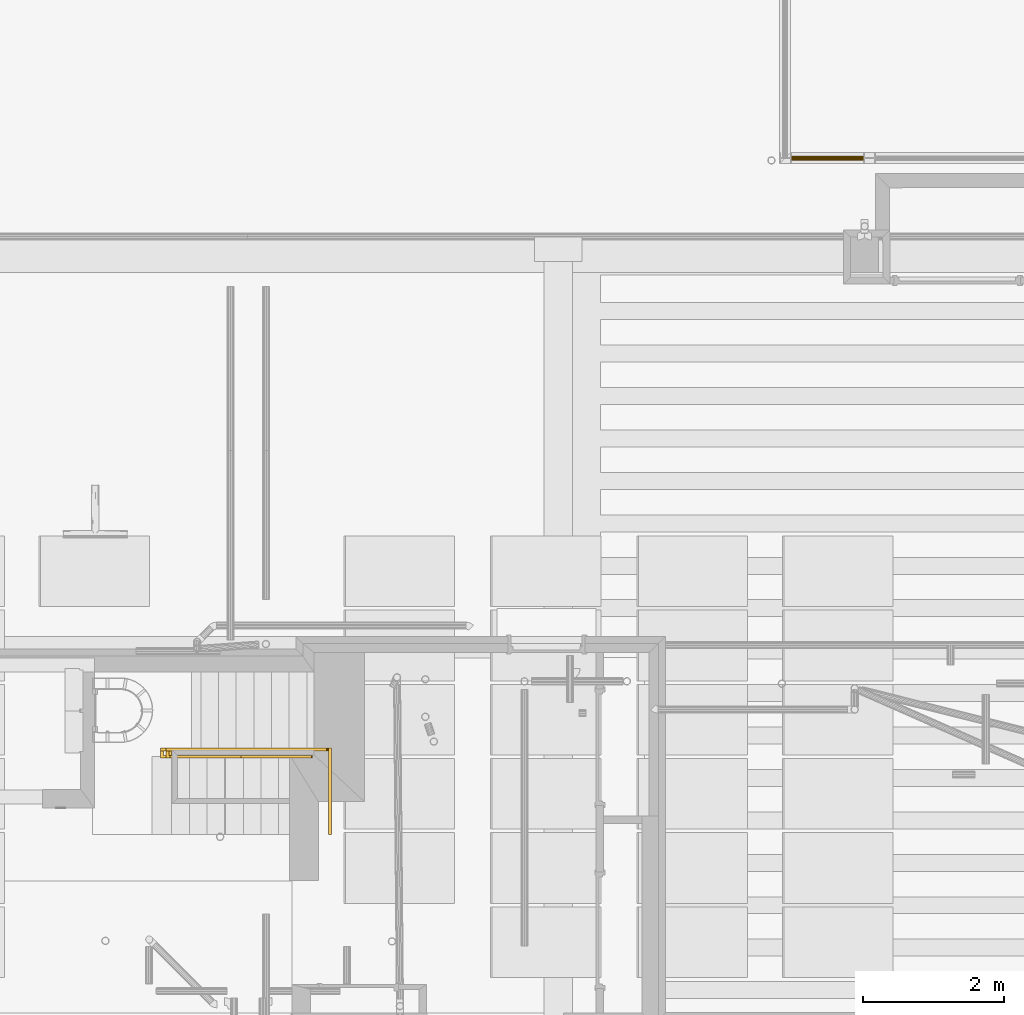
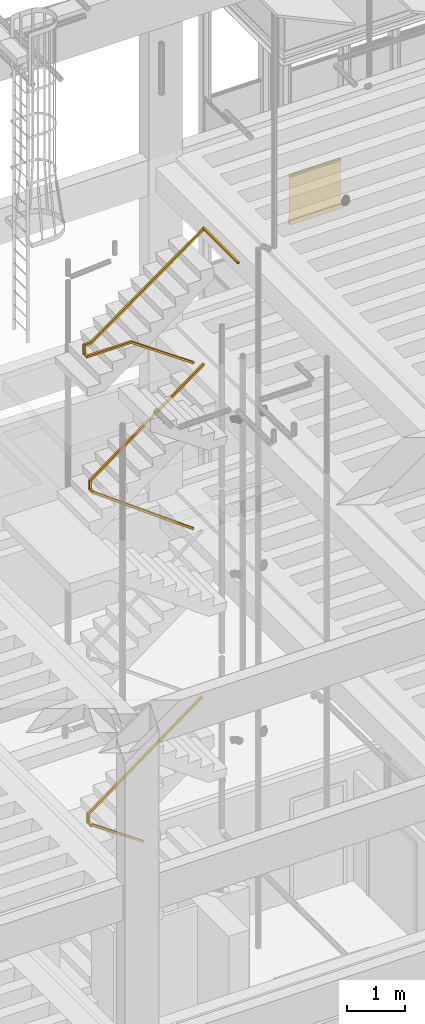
# One storey, part 30 of 108: 5 railings.
"""IFC2X3 building model written with IfcOpenShell, lengths in metres."""

from ifc_helpers import new_model, entity, si_unit, converted_unit, derived_unit, money_unit, direction, frame, origin_with_axes, place, context, subcontext, project, spatial, faceted_brep, material, type_object, element, save


model = new_model("IFC2X3")

# Units and contexts
model_context = context("Model", 3, precision=1e-05, world=origin_with_axes(), true_north=direction((0.0, 1.0)))
body_context = subcontext(model_context, "Body", "Model", "MODEL_VIEW", scale=1.0)
ifc_project = project(units=[si_unit("LENGTHUNIT", "METRE"), si_unit("AREAUNIT", "SQUARE_METRE"), si_unit("VOLUMEUNIT", "CUBIC_METRE"), si_unit("ABSORBEDDOSEUNIT", "GRAY"), si_unit("AMOUNTOFSUBSTANCEUNIT", "MOLE"), si_unit("DOSEEQUIVALENTUNIT", "SIEVERT"), si_unit("ELECTRICCAPACITANCEUNIT", "FARAD"), si_unit("ELECTRICCHARGEUNIT", "COULOMB"), si_unit("ELECTRICCONDUCTANCEUNIT", "SIEMENS"), si_unit("ELECTRICCURRENTUNIT", "AMPERE"), si_unit("ELECTRICRESISTANCEUNIT", "OHM"), si_unit("ELECTRICVOLTAGEUNIT", "VOLT"), si_unit("ENERGYUNIT", "JOULE"), si_unit("FORCEUNIT", "NEWTON"), si_unit("FREQUENCYUNIT", "HERTZ"), si_unit("ILLUMINANCEUNIT", "LUX"), si_unit("INDUCTANCEUNIT", "HENRY"), si_unit("LUMINOUSFLUXUNIT", "LUMEN"), si_unit("LUMINOUSINTENSITYUNIT", "CANDELA"), si_unit("MAGNETICFLUXDENSITYUNIT", "TESLA"), si_unit("MAGNETICFLUXUNIT", "WEBER"), si_unit("MASSUNIT", "GRAM"), converted_unit("PLANEANGLEUNIT", "degree", entity("IfcReal", 0.0174532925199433), si_unit("PLANEANGLEUNIT", "RADIAN"), dimensions=[0, 0, 0, 0, 0, 0, 0]), si_unit("POWERUNIT", "WATT"), si_unit("PRESSUREUNIT", "PASCAL"), si_unit("RADIOACTIVITYUNIT", "BECQUEREL"), si_unit("SOLIDANGLEUNIT", "STERADIAN"), si_unit("THERMODYNAMICTEMPERATUREUNIT", "KELVIN"), si_unit("TIMEUNIT", "SECOND"), derived_unit("ACCELERATIONUNIT", [(si_unit("LENGTHUNIT", "METRE"), 1), (si_unit("TIMEUNIT", "SECOND"), -2)]), derived_unit("ANGULARVELOCITYUNIT", [(converted_unit("PLANEANGLEUNIT", "degree", entity("IfcReal", 0.0174532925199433), si_unit("PLANEANGLEUNIT", "RADIAN"), dimensions=[0, 0, 0, 0, 0, 0, 0]), 1), (si_unit("TIMEUNIT", "SECOND"), -1)]), derived_unit("CURVATUREUNIT", [(converted_unit("PLANEANGLEUNIT", "degree", entity("IfcReal", 0.0174532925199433), si_unit("PLANEANGLEUNIT", "RADIAN"), dimensions=[0, 0, 0, 0, 0, 0, 0]), 1), (si_unit("LENGTHUNIT", "METRE"), -1)]), derived_unit("DYNAMICVISCOSITYUNIT", [(si_unit("PRESSUREUNIT", "PASCAL"), 1), (si_unit("TIMEUNIT", "SECOND"), 1)]), derived_unit("HEATFLUXDENSITYUNIT", [(si_unit("POWERUNIT", "WATT"), 1), (si_unit("LENGTHUNIT", "METRE"), -2)]), derived_unit("HEATINGVALUEUNIT", [(si_unit("ENERGYUNIT", "JOULE"), 1), (si_unit("MASSUNIT", "GRAM"), -1)]), derived_unit("INTEGERCOUNTRATEUNIT", [(si_unit("TIMEUNIT", "SECOND"), -1)]), derived_unit("IONCONCENTRATIONUNIT", [(si_unit("MASSUNIT", "GRAM"), 1), (si_unit("VOLUMEUNIT", "CUBIC_METRE"), -1)]), derived_unit("ISOTHERMALMOISTURECAPACITYUNIT", [(si_unit("VOLUMEUNIT", "CUBIC_METRE"), 1), (si_unit("MASSUNIT", "GRAM"), -1)]), derived_unit("KINEMATICVISCOSITYUNIT", [(si_unit("AREAUNIT", "SQUARE_METRE"), 1), (si_unit("TIMEUNIT", "SECOND"), -1)]), derived_unit("LINEARFORCEUNIT", [(si_unit("FORCEUNIT", "NEWTON"), 1), (si_unit("LENGTHUNIT", "METRE"), -1)]), derived_unit("LINEARMOMENTUNIT", [(si_unit("FORCEUNIT", "NEWTON"), 1), (si_unit("LENGTHUNIT", "METRE"), -1)]), derived_unit("LINEARSTIFFNESSUNIT", [(si_unit("FORCEUNIT", "NEWTON"), 1), (si_unit("LENGTHUNIT", "METRE"), -1)]), derived_unit("LINEARVELOCITYUNIT", [(si_unit("LENGTHUNIT", "METRE"), 1), (si_unit("TIMEUNIT", "SECOND"), -1)]), derived_unit("LUMINOUSINTENSITYDISTRIBUTIONUNIT", [(si_unit("LUMINOUSINTENSITYUNIT", "CANDELA"), 1), (si_unit("LUMINOUSFLUXUNIT", "LUMEN"), -1)]), derived_unit("MASSDENSITYUNIT", [(si_unit("MASSUNIT", "GRAM"), 1), (si_unit("VOLUMEUNIT", "CUBIC_METRE"), -1)]), derived_unit("MASSFLOWRATEUNIT", [(si_unit("MASSUNIT", "GRAM"), 1), (si_unit("TIMEUNIT", "SECOND"), -1)]), derived_unit("MASSPERLENGTHUNIT", [(si_unit("MASSUNIT", "GRAM"), 1), (si_unit("LENGTHUNIT", "METRE"), -1)]), derived_unit("MODULUSOFELASTICITYUNIT", [(si_unit("FORCEUNIT", "NEWTON"), 1), (si_unit("AREAUNIT", "SQUARE_METRE"), -1)]), derived_unit("MODULUSOFLINEARSUBGRADEREACTIONUNIT", [(si_unit("FORCEUNIT", "NEWTON"), 1), (si_unit("LENGTHUNIT", "METRE"), -2)]), derived_unit("MODULUSOFROTATIONALSUBGRADEREACTIONUNIT", [(si_unit("FORCEUNIT", "NEWTON"), 1), (si_unit("LENGTHUNIT", "METRE"), 1)]), derived_unit("MODULUSOFSUBGRADEREACTIONUNIT", [(si_unit("FORCEUNIT", "NEWTON"), 1), (si_unit("VOLUMEUNIT", "CUBIC_METRE"), -1)]), derived_unit("MOISTUREDIFFUSIVITYUNIT", [(si_unit("VOLUMEUNIT", "CUBIC_METRE"), 1), (si_unit("TIMEUNIT", "SECOND"), -1)]), derived_unit("MOLECULARWEIGHTUNIT", [(si_unit("MASSUNIT", "GRAM"), 1), (si_unit("AMOUNTOFSUBSTANCEUNIT", "MOLE"), -1)]), derived_unit("PLANARFORCEUNIT", [(si_unit("FORCEUNIT", "NEWTON"), 1), (si_unit("LENGTHUNIT", "METRE"), -2)]), derived_unit("ROTATIONALFREQUENCYUNIT", [(si_unit("TIMEUNIT", "SECOND"), -1)]), derived_unit("ROTATIONALMASSUNIT", [(si_unit("MASSUNIT", "GRAM"), 1), (si_unit("LENGTHUNIT", "METRE"), 2)]), derived_unit("ROTATIONALSTIFFNESSUNIT", [(si_unit("FORCEUNIT", "NEWTON"), 1), (si_unit("LENGTHUNIT", "METRE"), 1), (converted_unit("PLANEANGLEUNIT", "degree", entity("IfcReal", 0.0174532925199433), si_unit("PLANEANGLEUNIT", "RADIAN"), dimensions=[0, 0, 0, 0, 0, 0, 0]), -1)]), derived_unit("SECTIONAREAINTEGRALUNIT", [(si_unit("LENGTHUNIT", "METRE"), 5)]), derived_unit("SECTIONMODULUSUNIT", [(si_unit("LENGTHUNIT", "METRE"), 3)]), derived_unit("SHEARMODULUSUNIT", [(si_unit("FORCEUNIT", "NEWTON"), 1), (si_unit("AREAUNIT", "SQUARE_METRE"), -1)]), derived_unit("SOUNDPOWERUNIT", [(si_unit("ENERGYUNIT", "JOULE"), 1), (si_unit("TIMEUNIT", "SECOND"), -1)]), derived_unit("SPECIFICHEATCAPACITYUNIT", [(si_unit("FORCEUNIT", "NEWTON"), 1), (si_unit("MASSUNIT", "GRAM"), -1), (si_unit("THERMODYNAMICTEMPERATUREUNIT", "KELVIN"), -1)]), derived_unit("TEMPERATUREGRADIENTUNIT", [(si_unit("THERMODYNAMICTEMPERATUREUNIT", "KELVIN"), 1), (si_unit("LENGTHUNIT", "METRE"), -1)]), derived_unit("THERMALADMITTANCEUNIT", [(si_unit("POWERUNIT", "WATT"), 1), (si_unit("AREAUNIT", "SQUARE_METRE"), -1), (si_unit("THERMODYNAMICTEMPERATUREUNIT", "KELVIN"), -1)]), derived_unit("THERMALCONDUCTANCEUNIT", [(si_unit("POWERUNIT", "WATT"), 1), (si_unit("LENGTHUNIT", "METRE"), -1), (si_unit("THERMODYNAMICTEMPERATUREUNIT", "KELVIN"), -1)]), derived_unit("THERMALEXPANSIONCOEFFICIENTUNIT", [(si_unit("THERMODYNAMICTEMPERATUREUNIT", "KELVIN"), -1)]), derived_unit("THERMALRESISTANCEUNIT", [(si_unit("AREAUNIT", "SQUARE_METRE"), 1), (si_unit("POWERUNIT", "WATT"), -1)]), derived_unit("THERMALTRANSMITTANCEUNIT", [(si_unit("POWERUNIT", "WATT"), 1), (si_unit("AREAUNIT", "SQUARE_METRE"), -1), (si_unit("THERMODYNAMICTEMPERATUREUNIT", "KELVIN"), -1)]), derived_unit("TORQUEUNIT", [(si_unit("FORCEUNIT", "NEWTON"), 1), (si_unit("LENGTHUNIT", "METRE"), 1)]), derived_unit("VAPORPERMEABILITYUNIT", [(si_unit("MASSUNIT", "GRAM"), 1), (si_unit("TIMEUNIT", "SECOND"), -1)]), derived_unit("VOLUMETRICFLOWRATEUNIT", [(si_unit("VOLUMEUNIT", "CUBIC_METRE"), 1), (si_unit("TIMEUNIT", "SECOND"), -1)]), derived_unit("WARPINGCONSTANTUNIT", [(si_unit("LENGTHUNIT", "METRE"), 6)]), derived_unit("WARPINGMOMENTUNIT", [(si_unit("FORCEUNIT", "NEWTON"), 1), (si_unit("LENGTHUNIT", "METRE"), 2)]), money_unit("GBP")], contexts=[model_context])

# Site, building, storey
site_placement = place(None, origin_with_axes())
site = spatial("IfcSite", under=ifc_project, at=site_placement, Name="Site", CompositionType="ELEMENT")
building_placement = place(site_placement, origin_with_axes())
building = spatial("IfcBuilding", under=site, at=building_placement, Name="Building01", CompositionType="ELEMENT")
storey_placement = place(building_placement, origin_with_axes())
storey = spatial("IfcBuildingStorey", under=building, at=storey_placement, Name="GF", CompositionType="ELEMENT", Elevation=0.0)

# Railings
ifc_material = material(Name="A_BSUK_Steel_Miscellaneous")
railing_type_1 = type_object("IfcRailingType", Name="A-Handrail-900mm", PredefinedType="NOTDEFINED")
railing_1_placement = place(storey_placement, frame((14.65313, 7.55, 14.98), z_axis=(0.0, 0.0, 1.0), x_axis=(1.0, 0.0, 0.0)))
element("IfcRailing", 1, at=railing_1_placement, inside=storey, type_object=railing_type_1, material=ifc_material, Name="A-Handrail-900mm", ObjectType="A-Handrail-900mm", PredefinedType="HANDRAIL", context=body_context, shape_type="Brep", body=[
    faceted_brep([(-0.726628, -0.02, 0.327539), (-0.75, -0.02, 0.36), (-0.75, 0.02, 0.36), (-0.726628, 0.02, 0.327539), (-0.728965, -0.016, 0.330785), (-0.728965, 0.016, 0.330785), (-0.747663, 0.016, 0.356754), (-0.747663, -0.016, 0.356754), (0.023372, 0.02, 0.867539), (0.0, 0.02, 0.9), (0.0, -0.02, 0.9), (0.023372, -0.02, 0.867539), (0.021035, -0.016, 0.870785), (0.002337, -0.016, 0.896754), (0.002337, 0.016, 0.896754), (0.021035, 0.016, 0.870785)], [[[0, 1, 2, 3], [4, 5, 6, 7]], [[8, 9, 10, 11], [12, 13, 14, 15]], [[11, 0, 3, 8]], [[10, 1, 0, 11]], [[9, 2, 1, 10]], [[8, 3, 2, 9]], [[15, 5, 4, 12]], [[12, 4, 7, 13]], [[13, 7, 6, 14]], [[14, 6, 5, 15]]]),
    faceted_brep([(-1.476628, -0.02, -0.212461), (-1.5, -0.02, -0.18), (-1.5, 0.02, -0.18), (-1.476628, 0.02, -0.212461), (-1.478965, -0.016, -0.209215), (-1.478965, 0.016, -0.209215), (-1.497663, 0.016, -0.183246), (-1.497663, -0.016, -0.183246), (-0.726628, 0.02, 0.327539), (-0.75, 0.02, 0.36), (-0.75, -0.02, 0.36), (-0.726628, -0.02, 0.327539), (-0.728965, -0.016, 0.330785), (-0.747663, -0.016, 0.356754), (-0.747663, 0.016, 0.356754), (-0.728965, 0.016, 0.330785)], [[[0, 1, 2, 3], [4, 5, 6, 7]], [[8, 9, 10, 11], [12, 13, 14, 15]], [[11, 0, 3, 8]], [[10, 1, 0, 11]], [[9, 2, 1, 10]], [[8, 3, 2, 9]], [[15, 5, 4, 12]], [[12, 4, 7, 13]], [[13, 7, 6, 14]], [[14, 6, 5, 15]]]),
    faceted_brep([(-1.476628, 0.02, -0.212461), (-1.5, 0.02, -0.18), (-1.5, -0.02, -0.18), (-1.476628, -0.02, -0.212461), (-1.478965, -0.016, -0.209215), (-1.497663, -0.016, -0.183246), (-1.497663, 0.016, -0.183246), (-1.478965, 0.016, -0.209215), (-2.237098, -0.02, -0.76), (-2.237098, 0.02, -0.76), (-2.25, -0.02, -0.72), (-2.25, 0.02, -0.72), (-2.238388, -0.016, -0.756), (-2.238388, 0.016, -0.756), (-2.24871, -0.016, -0.724), (-2.24871, 0.016, -0.724)], [[[0, 1, 2, 3], [4, 5, 6, 7]], [[8, 9, 0, 3]], [[10, 8, 3, 2]], [[11, 10, 2, 1]], [[9, 11, 1, 0]], [[12, 4, 7, 13]], [[14, 5, 4, 12]], [[15, 6, 5, 14]], [[13, 7, 6, 15]], [[8, 10, 11, 9], [12, 13, 15, 14]]]),
    faceted_brep([(-2.35233, -0.02, -0.76), (-2.35233, 0.02, -0.76), (-2.237098, 0.02, -0.76), (-2.237098, -0.02, -0.76), (-2.39233, -0.02, -0.72), (-2.25, -0.02, -0.72), (-2.25, 0.02, -0.72), (-2.39233, 0.02, -0.72), (-2.35633, -0.016, -0.756), (-2.238388, -0.016, -0.756), (-2.238388, 0.016, -0.756), (-2.35633, 0.016, -0.756), (-2.38833, -0.016, -0.724), (-2.24871, -0.016, -0.724), (-2.38833, 0.016, -0.724), (-2.24871, 0.016, -0.724)], [[[0, 1, 2, 3]], [[4, 0, 3, 5]], [[5, 6, 7, 4]], [[1, 7, 6, 2]], [[8, 9, 10, 11]], [[12, 13, 9, 8]], [[14, 15, 13, 12]], [[11, 10, 15, 14]], [[2, 6, 5, 3], [10, 9, 13, 15]], [[0, 4, 7, 1], [8, 11, 14, 12]]]),
    faceted_brep([(-2.39233, 0.02, -0.72), (-2.35233, 0.02, -0.76), (-2.35233, 0.02, -0.94), (-2.39233, 0.02, -0.94), (-2.35233, -0.02, -0.9), (-2.35233, -0.02, -0.76), (-2.39233, -0.02, -0.9), (-2.39233, -0.02, -0.72), (-2.35633, 0.016, -0.936), (-2.35633, 0.016, -0.756), (-2.38833, 0.016, -0.724), (-2.38833, 0.016, -0.936), (-2.35633, -0.016, -0.904), (-2.35633, -0.016, -0.756), (-2.38833, -0.016, -0.904), (-2.38833, -0.016, -0.724)], [[[0, 1, 2, 3]], [[4, 2, 1, 5]], [[6, 4, 5, 7]], [[3, 6, 7, 0]], [[8, 9, 10, 11]], [[12, 13, 9, 8]], [[14, 15, 13, 12]], [[11, 10, 15, 14]], [[0, 7, 5, 1], [10, 9, 13, 15]], [[2, 4, 6, 3], [8, 11, 14, 12]]]),
    faceted_brep([(-2.35233, -0.079237, -0.94), (-2.39233, -0.119237, -0.94), (-2.39233, 0.02, -0.94), (-2.35233, 0.02, -0.94), (-2.35233, -0.079237, -0.9), (-2.35233, -0.02, -0.9), (-2.39233, -0.119237, -0.9), (-2.39233, -0.02, -0.9), (-2.35633, -0.083237, -0.936), (-2.35633, 0.016, -0.936), (-2.38833, 0.016, -0.936), (-2.38833, -0.115237, -0.936), (-2.35633, -0.083237, -0.904), (-2.35633, -0.016, -0.904), (-2.38833, -0.115237, -0.904), (-2.38833, -0.016, -0.904)], [[[0, 1, 2, 3]], [[4, 0, 3, 5]], [[6, 4, 5, 7]], [[7, 2, 1, 6]], [[8, 9, 10, 11]], [[12, 13, 9, 8]], [[14, 15, 13, 12]], [[11, 10, 15, 14]], [[2, 7, 5, 3], [10, 9, 13, 15]], [[0, 4, 6, 1], [8, 11, 14, 12]]]),
    faceted_brep([(-1.50988, -0.079237, -0.94), (-1.50988, -0.119237, -0.94), (-2.39233, -0.119237, -0.94), (-2.35233, -0.079237, -0.94), (-1.497272, -0.079237, -0.9), (-2.35233, -0.079237, -0.9), (-2.39233, -0.119237, -0.9), (-1.497272, -0.119237, -0.9), (-1.50862, -0.083237, -0.936), (-2.35633, -0.083237, -0.936), (-2.38833, -0.115237, -0.936), (-1.50862, -0.115237, -0.936), (-1.498532, -0.083237, -0.904), (-2.35633, -0.083237, -0.904), (-1.498532, -0.115237, -0.904), (-2.38833, -0.115237, -0.904)], [[[0, 1, 2, 3]], [[4, 0, 3, 5]], [[5, 6, 7, 4]], [[1, 7, 6, 2]], [[8, 9, 10, 11]], [[12, 13, 9, 8]], [[14, 15, 13, 12]], [[11, 10, 15, 14]], [[2, 6, 5, 3], [10, 9, 13, 15]], [[0, 4, 7, 1], [8, 11, 14, 12]]]),
    faceted_brep([(-1.02021, -0.079237, -1.282769), (-0.997272, -0.079237, -1.25), (-0.997272, -0.119237, -1.25), (-1.02021, -0.119237, -1.282769), (-1.017916, -0.083237, -1.279492), (-1.017916, -0.115237, -1.279492), (-0.999565, -0.115237, -1.253277), (-0.999565, -0.083237, -1.253277), (-1.50988, -0.119237, -0.94), (-1.50988, -0.079237, -0.94), (-1.497272, -0.079237, -0.9), (-1.497272, -0.119237, -0.9), (-1.50862, -0.115237, -0.936), (-1.50862, -0.083237, -0.936), (-1.498532, -0.083237, -0.904), (-1.498532, -0.115237, -0.904)], [[[0, 1, 2, 3], [4, 5, 6, 7]], [[8, 9, 0, 3]], [[9, 10, 1, 0]], [[10, 11, 2, 1]], [[11, 8, 3, 2]], [[12, 5, 4, 13]], [[13, 4, 7, 14]], [[14, 7, 6, 15]], [[15, 6, 5, 12]], [[8, 11, 10, 9], [12, 13, 14, 15]]]),
    faceted_brep([(-0.27021, -0.079237, -1.807769), (-0.247272, -0.079237, -1.775), (-0.247272, -0.119237, -1.775), (-0.27021, -0.119237, -1.807769), (-0.267916, -0.083237, -1.804492), (-0.267916, -0.115237, -1.804492), (-0.249565, -0.115237, -1.778277), (-0.249565, -0.083237, -1.778277), (-1.02021, -0.119237, -1.282769), (-0.997272, -0.119237, -1.25), (-0.997272, -0.079237, -1.25), (-1.02021, -0.079237, -1.282769), (-1.017916, -0.083237, -1.279492), (-0.999565, -0.083237, -1.253277), (-0.999565, -0.115237, -1.253277), (-1.017916, -0.115237, -1.279492)], [[[0, 1, 2, 3], [4, 5, 6, 7]], [[8, 9, 10, 11], [12, 13, 14, 15]], [[11, 0, 3, 8]], [[10, 1, 0, 11]], [[9, 2, 1, 10]], [[8, 3, 2, 9]], [[15, 5, 4, 12]], [[12, 4, 7, 13]], [[13, 7, 6, 14]], [[14, 6, 5, 15]]]),
])
railing_2_placement = place(storey_placement, frame((14.647097, 7.55, 12.13), z_axis=(0.0, 0.0, 1.0), x_axis=(1.0, 0.0, 0.0)))
element("IfcRailing", 2, at=railing_2_placement, inside=storey, type_object=railing_type_1, material=ifc_material, Name="A-Handrail-900mm", ObjectType="A-Handrail-900mm", PredefinedType="HANDRAIL", context=body_context, shape_type="Brep", body=[
    faceted_brep([(0.023684, 0.021, 0.867765), (0.0, 0.021, 0.9), (0.0, -0.019, 0.9), (0.023684, -0.019, 0.867765), (0.021316, -0.015, 0.870989), (0.002368, -0.015, 0.896777), (0.002368, 0.017, 0.896777), (0.021316, 0.017, 0.870989), (-2.231, -0.019, -0.788834), (-2.231, 0.021, -0.788834), (-2.271, -0.019, -0.768587), (-2.271, 0.021, -0.768587), (-2.235, -0.015, -0.786809), (-2.235, 0.017, -0.786809), (-2.267, -0.015, -0.770612), (-2.267, 0.017, -0.770612)], [[[0, 1, 2, 3], [4, 5, 6, 7]], [[8, 9, 0, 3]], [[10, 8, 3, 2]], [[11, 10, 2, 1]], [[9, 11, 1, 0]], [[12, 4, 7, 13]], [[14, 5, 4, 12]], [[15, 6, 5, 14]], [[13, 7, 6, 15]], [[8, 10, 11, 9], [12, 13, 15, 14]]]),
    faceted_brep([(-2.271, 0.021, -0.768587), (-2.231, 0.021, -0.788834), (-2.231, 0.021, -0.976842), (-2.271, 0.021, -0.976842), (-2.231, -0.019, -0.936842), (-2.231, -0.019, -0.788834), (-2.271, -0.019, -0.936842), (-2.271, -0.019, -0.768587), (-2.235, 0.017, -0.972842), (-2.235, 0.017, -0.786809), (-2.267, 0.017, -0.770612), (-2.267, 0.017, -0.972842), (-2.235, -0.015, -0.940842), (-2.235, -0.015, -0.786809), (-2.267, -0.015, -0.940842), (-2.267, -0.015, -0.770612)], [[[0, 1, 2, 3]], [[4, 2, 1, 5]], [[6, 4, 5, 7]], [[3, 6, 7, 0]], [[8, 9, 10, 11]], [[12, 13, 9, 8]], [[14, 15, 13, 12]], [[11, 10, 15, 14]], [[0, 7, 5, 1], [10, 9, 13, 15]], [[2, 4, 6, 3], [8, 11, 14, 12]]]),
    faceted_brep([(-2.231, -0.081, -0.976842), (-2.271, -0.121, -0.976842), (-2.271, 0.021, -0.976842), (-2.231, 0.021, -0.976842), (-2.231, -0.081, -0.936842), (-2.231, -0.019, -0.936842), (-2.271, -0.121, -0.936842), (-2.271, -0.019, -0.936842), (-2.235, -0.085, -0.972842), (-2.235, 0.017, -0.972842), (-2.267, 0.017, -0.972842), (-2.267, -0.117, -0.972842), (-2.235, -0.085, -0.940842), (-2.235, -0.015, -0.940842), (-2.267, -0.117, -0.940842), (-2.267, -0.015, -0.940842)], [[[0, 1, 2, 3]], [[4, 0, 3, 5]], [[6, 4, 5, 7]], [[7, 2, 1, 6]], [[8, 9, 10, 11]], [[12, 13, 9, 8]], [[14, 15, 13, 12]], [[11, 10, 15, 14]], [[2, 7, 5, 3], [10, 9, 13, 15]], [[0, 4, 6, 1], [8, 11, 14, 12]]]),
    faceted_brep([(-2.263115, -0.121, -0.976842), (-2.263115, -0.113115, -0.976842), (-2.261804, -0.111804, -0.972842), (-2.261804, -0.117, -0.972842), (-2.251312, -0.117, -0.940842), (-2.251312, -0.101312, -0.940842), (-2.25, -0.1, -0.936842), (-2.25, -0.121, -0.936842), (-2.267, -0.117, -0.940842), (-2.267, -0.117, -0.972842), (-2.271, -0.121, -0.976842), (-2.271, -0.121, -0.936842)], [[[0, 1, 2, 3, 4, 5, 6, 7]], [[6, 5, 8, 9, 2, 1, 10, 11]], [[1, 0, 10]], [[6, 11, 7]], [[0, 7, 11, 10]], [[2, 9, 3]], [[4, 8, 5]], [[3, 9, 8, 4]]]),
    faceted_brep([(-2.023684, -0.081, -1.152761), (-2.0, -0.081, -1.120526), (-2.0, -0.121, -1.120526), (-2.023684, -0.121, -1.152761), (-2.021316, -0.085, -1.149537), (-2.021316, -0.117, -1.149537), (-2.002368, -0.117, -1.12375), (-2.002368, -0.085, -1.12375), (-2.263115, -0.121, -0.976842), (-2.263115, -0.081, -0.976842), (-2.25, -0.081, -0.936842), (-2.25, -0.121, -0.936842), (-2.261804, -0.117, -0.972842), (-2.261804, -0.085, -0.972842), (-2.251312, -0.085, -0.940842), (-2.251312, -0.117, -0.940842)], [[[0, 1, 2, 3], [4, 5, 6, 7]], [[8, 9, 0, 3]], [[9, 10, 1, 0]], [[10, 11, 2, 1]], [[11, 8, 3, 2]], [[12, 5, 4, 13]], [[13, 4, 7, 14]], [[14, 7, 6, 15]], [[15, 6, 5, 12]], [[8, 11, 10, 9], [12, 13, 14, 15]]]),
    faceted_brep([(-0.273684, -0.081, -2.43855), (-0.25, -0.081, -2.406316), (-0.25, -0.121, -2.406316), (-0.273684, -0.121, -2.43855), (-0.271316, -0.085, -2.435327), (-0.271316, -0.117, -2.435327), (-0.252368, -0.117, -2.409539), (-0.252368, -0.085, -2.409539), (-2.023684, -0.121, -1.152761), (-2.0, -0.121, -1.120526), (-2.0, -0.081, -1.120526), (-2.023684, -0.081, -1.152761), (-2.021316, -0.085, -1.149537), (-2.002368, -0.085, -1.12375), (-2.002368, -0.117, -1.12375), (-2.021316, -0.117, -1.149537)], [[[0, 1, 2, 3], [4, 5, 6, 7]], [[8, 9, 10, 11], [12, 13, 14, 15]], [[11, 0, 3, 8]], [[10, 1, 0, 11]], [[9, 2, 1, 10]], [[8, 3, 2, 9]], [[15, 5, 4, 12]], [[12, 4, 7, 13]], [[13, 7, 6, 14]], [[14, 6, 5, 15]]]),
])
railing_3_placement = place(storey_placement, frame((14.609584, 7.55, 5.15), z_axis=(0.0, 0.0, 1.0), x_axis=(1.0, 0.0, 0.0)))
element("IfcRailing", 3, at=railing_3_placement, inside=storey, type_object=railing_type_1, material=ifc_material, Name="A-Handrail-900mm", ObjectType="A-Handrail-900mm", PredefinedType="HANDRAIL", context=body_context, shape_type="Brep", body=[
    faceted_brep([(-0.726206, -0.02, 0.312846), (-0.75, -0.02, 0.345), (-0.75, 0.02, 0.345), (-0.726206, 0.02, 0.312846), (-0.728586, -0.016, 0.316062), (-0.728586, 0.016, 0.316062), (-0.747621, 0.016, 0.341785), (-0.747621, -0.016, 0.341785), (0.023794, 0.02, 0.867846), (0.0, 0.02, 0.9), (0.0, -0.02, 0.9), (0.023794, -0.02, 0.867846), (0.021414, -0.016, 0.871062), (0.002379, -0.016, 0.896785), (0.002379, 0.016, 0.896785), (0.021414, 0.016, 0.871062)], [[[0, 1, 2, 3], [4, 5, 6, 7]], [[8, 9, 10, 11], [12, 13, 14, 15]], [[11, 0, 3, 8]], [[10, 1, 0, 11]], [[9, 2, 1, 10]], [[8, 3, 2, 9]], [[15, 5, 4, 12]], [[12, 4, 7, 13]], [[13, 7, 6, 14]], [[14, 6, 5, 15]]]),
    faceted_brep([(-1.476206, -0.02, -0.242154), (-1.5, -0.02, -0.21), (-1.5, 0.02, -0.21), (-1.476206, 0.02, -0.242154), (-1.478586, -0.016, -0.238938), (-1.478586, 0.016, -0.238938), (-1.497621, 0.016, -0.213215), (-1.497621, -0.016, -0.213215), (-0.726206, 0.02, 0.312846), (-0.75, 0.02, 0.345), (-0.75, -0.02, 0.345), (-0.726206, -0.02, 0.312846), (-0.728586, -0.016, 0.316062), (-0.747621, -0.016, 0.341785), (-0.747621, 0.016, 0.341785), (-0.728586, 0.016, 0.316062)], [[[0, 1, 2, 3], [4, 5, 6, 7]], [[8, 9, 10, 11], [12, 13, 14, 15]], [[11, 0, 3, 8]], [[10, 1, 0, 11]], [[9, 2, 1, 10]], [[8, 3, 2, 9]], [[15, 5, 4, 12]], [[12, 4, 7, 13]], [[13, 7, 6, 14]], [[14, 6, 5, 15]]]),
    faceted_brep([(-1.476206, 0.02, -0.242154), (-1.5, 0.02, -0.21), (-1.5, -0.02, -0.21), (-1.476206, -0.02, -0.242154), (-1.478586, -0.016, -0.238938), (-1.497621, -0.016, -0.213215), (-1.497621, 0.016, -0.213215), (-1.478586, 0.016, -0.238938), (-2.23, -0.02, -0.799961), (-2.23, 0.02, -0.799961), (-2.27, -0.02, -0.7798), (-2.27, 0.02, -0.7798), (-2.234, -0.016, -0.797945), (-2.234, 0.016, -0.797945), (-2.266, -0.016, -0.781816), (-2.266, 0.016, -0.781816)], [[[0, 1, 2, 3], [4, 5, 6, 7]], [[8, 9, 0, 3]], [[10, 8, 3, 2]], [[11, 10, 2, 1]], [[9, 11, 1, 0]], [[12, 4, 7, 13]], [[14, 5, 4, 12]], [[15, 6, 5, 14]], [[13, 7, 6, 15]], [[8, 10, 11, 9], [12, 13, 15, 14]]]),
    faceted_brep([(-2.27, 0.02, -0.7798), (-2.23, 0.02, -0.799961), (-2.23, 0.02, -0.99), (-2.27, 0.02, -0.99), (-2.23, -0.02, -0.95), (-2.23, -0.02, -0.799961), (-2.27, -0.02, -0.95), (-2.27, -0.02, -0.7798), (-2.234, 0.016, -0.986), (-2.234, 0.016, -0.797945), (-2.266, 0.016, -0.781816), (-2.266, 0.016, -0.986), (-2.234, -0.016, -0.954), (-2.234, -0.016, -0.797945), (-2.266, -0.016, -0.954), (-2.266, -0.016, -0.781816)], [[[0, 1, 2, 3]], [[4, 2, 1, 5]], [[6, 4, 5, 7]], [[3, 6, 7, 0]], [[8, 9, 10, 11]], [[12, 13, 9, 8]], [[14, 15, 13, 12]], [[11, 10, 15, 14]], [[0, 7, 5, 1], [10, 9, 13, 15]], [[2, 4, 6, 3], [8, 11, 14, 12]]]),
    faceted_brep([(-2.23, -0.079981, -0.990001), (-2.27, -0.119981, -0.990002), (-2.27, 0.02, -0.99), (-2.23, 0.02, -0.99), (-2.23, -0.080019, -0.950001), (-2.23, -0.02, -0.95), (-2.27, -0.120019, -0.950002), (-2.27, -0.02, -0.95), (-2.234, -0.083985, -0.986001), (-2.234, 0.016, -0.986), (-2.266, 0.016, -0.986), (-2.266, -0.115985, -0.986001), (-2.234, -0.084015, -0.954001), (-2.234, -0.016, -0.954), (-2.266, -0.116015, -0.954001), (-2.266, -0.016, -0.954)], [[[0, 1, 2, 3]], [[4, 0, 3, 5]], [[6, 4, 5, 7]], [[1, 6, 7, 2]], [[8, 9, 10, 11]], [[12, 13, 9, 8]], [[14, 15, 13, 12]], [[11, 10, 15, 14]], [[2, 7, 5, 3], [10, 9, 13, 15]], [[0, 4, 6, 1], [8, 11, 14, 12]]]),
    faceted_brep([(-2.230669, -0.08065, -0.990019), (-2.230669, -0.12, -0.990019), (-2.270019, -0.12, -0.989983), (-2.218103, -0.08, -0.950031), (-2.230017, -0.08, -0.987943), (-2.229981, -0.08, -0.95002), (-2.218103, -0.12, -0.950031), (-2.269981, -0.12, -0.949983), (-2.229413, -0.084, -0.98602), (-2.234015, -0.084, -0.986016), (-2.266015, -0.116, -0.985987), (-2.229413, -0.116, -0.98602), (-2.219359, -0.084, -0.954029), (-2.233985, -0.084, -0.954016), (-2.21936, -0.116, -0.954029), (-2.265985, -0.116, -0.953987)], [[[0, 1, 2]], [[3, 4, 5]], [[6, 3, 5, 7]], [[1, 6, 7, 2]], [[8, 9, 10, 11]], [[12, 13, 9, 8]], [[14, 15, 13, 12]], [[11, 10, 15, 14]], [[4, 0, 2, 7, 5], [10, 9, 13, 15]], [[6, 1, 0, 4, 3], [8, 11, 14, 12]]]),
    faceted_brep([(-1.235486, -0.08002, -1.682666), (-1.212636, -0.08002, -1.649835), (-1.212636, -0.12002, -1.649835), (-1.235487, -0.12002, -1.682666), (-1.233201, -0.08402, -1.679383), (-1.233202, -0.11602, -1.679383), (-1.214921, -0.11602, -1.653118), (-1.214921, -0.08402, -1.653118), (-2.23067, -0.12, -0.990019), (-2.230669, -0.08, -0.990019), (-2.218103, -0.08, -0.95003), (-2.218103, -0.12, -0.950031), (-2.229413, -0.116, -0.98602), (-2.229412, -0.084, -0.98602), (-2.219359, -0.084, -0.954029), (-2.21936, -0.116, -0.95403)], [[[0, 1, 2, 3], [4, 5, 6, 7]], [[8, 9, 0, 3]], [[9, 10, 1, 0]], [[10, 11, 2, 1]], [[11, 8, 3, 2]], [[12, 5, 4, 13]], [[13, 4, 7, 14]], [[14, 7, 6, 15]], [[15, 6, 5, 12]], [[8, 11, 10, 9], [12, 13, 14, 15]]]),
])
railing_type_2 = type_object("IfcRailingType", Name="A-RailingGlassPanel-1050mm", PredefinedType="NOTDEFINED")
railing_4_placement = place(storey_placement, frame((22.199835, 15.915881, 8.587442), z_axis=(0.0, 0.0, 1.0), x_axis=(1.0, 0.0, 0.0)))
element("IfcRailing", 4, at=railing_4_placement, inside=storey, type_object=railing_type_2, material=ifc_material, Name="A-RailingGlassPanel-1050mm", ObjectType="A-RailingGlassPanel-1050mm", PredefinedType="HANDRAIL", context=body_context, shape_type="Brep", body=[
    faceted_brep([(-1.018201, -0.0125, 0.9875), (0.0, -0.0125, 0.9875), (0.0, -0.023022, 0.99456), (-1.018201, -0.023022, 0.99456), (0.0, -0.030045, 1.005108), (-1.018201, -0.030045, 1.005108), (0.0, -0.0325, 1.017539), (-1.018201, -0.0325, 1.017539), (0.0, -0.030015, 1.029964), (-1.018201, -0.030015, 1.029964), (0.0, -0.022967, 1.040495), (-1.018201, -0.022967, 1.040495), (0.0, -0.012428, 1.04753), (-1.018201, -0.012428, 1.04753), (0.0, 0.0, 1.05), (-1.018201, 0.0, 1.05), (0.0, 0.012428, 1.04753), (-1.018201, 0.012428, 1.04753), (0.0, 0.022967, 1.040495), (-1.018201, 0.022967, 1.040495), (0.0, 0.030015, 1.029964), (-1.018201, 0.030015, 1.029964), (0.0, 0.0325, 1.017539), (-1.018201, 0.0325, 1.017539), (0.0, 0.030045, 1.005108), (-1.018201, 0.030045, 1.005108), (0.0, 0.023022, 0.99456), (-1.018201, 0.023022, 0.99456), (0.0, 0.0125, 0.9875), (-1.018201, 0.0125, 0.9875), (-1.018201, -0.0125, 1.0125), (0.0, -0.0125, 1.0125), (-1.018201, 0.0125, 1.0125), (0.0, 0.0125, 1.0125)], [[[0, 1, 2, 3]], [[3, 2, 4, 5]], [[5, 4, 6, 7]], [[7, 6, 8, 9]], [[9, 8, 10, 11]], [[11, 10, 12, 13]], [[13, 12, 14, 15]], [[15, 14, 16, 17]], [[17, 16, 18, 19]], [[19, 18, 20, 21]], [[21, 20, 22, 23]], [[23, 22, 24, 25]], [[25, 24, 26, 27]], [[27, 26, 28, 29]], [[0, 30, 31, 1]], [[30, 32, 33, 31]], [[32, 30, 0, 3, 5, 7, 9, 11, 13, 15, 17, 19, 21, 23, 25, 27, 29]], [[32, 29, 28, 33]], [[28, 26, 24, 22, 20, 18, 16, 14, 12, 10, 8, 6, 4, 2, 1, 31, 33]]]),
    faceted_brep([(-1.018201, -0.0295, 0.099925), (0.0, -0.0295, 0.099925), (0.0, -0.0125, 0.099925), (-1.018201, -0.0125, 0.099925), (-1.018201, -0.0325, 0.096925), (0.0, -0.0325, 0.096925), (0.0, -0.032272, 0.098073), (-1.018201, -0.032272, 0.098073), (0.0, -0.031621, 0.099046), (-1.018201, -0.031621, 0.099046), (0.0, -0.030648, 0.099697), (-1.018201, -0.030648, 0.099697), (-1.018201, -0.0325, 0.003), (0.0, -0.0325, 0.003), (-1.018201, -0.0295, 0.0), (-1.018201, -0.030648, 0.000228), (-1.018201, -0.031621, 0.000879), (-1.018201, -0.032272, 0.001852), (-1.018201, -0.0125, 0.01), (-1.018201, 0.0125, 0.01), (-1.018201, 0.0125, 0.099925), (-1.018201, 0.0295, 0.099925), (-1.018201, 0.030648, 0.099697), (-1.018201, 0.031621, 0.099046), (-1.018201, 0.032272, 0.098073), (-1.018201, 0.0325, 0.096925), (-1.018201, 0.0325, 0.003), (-1.018201, 0.032272, 0.001852), (-1.018201, 0.031621, 0.000879), (-1.018201, 0.030648, 0.000228), (-1.018201, 0.0295, 0.0), (0.0, 0.0295, 0.0), (0.0, 0.030648, 0.000228), (0.0, 0.031621, 0.000879), (0.0, 0.032272, 0.001852), (0.0, 0.0325, 0.003), (0.0, 0.0325, 0.096925), (0.0, 0.032272, 0.098073), (0.0, 0.031621, 0.099046), (0.0, 0.030648, 0.099697), (0.0, 0.0295, 0.099925), (0.0, 0.0125, 0.099925), (0.0, 0.0125, 0.01), (0.0, -0.0125, 0.01), (0.0, -0.032272, 0.001852), (0.0, -0.031621, 0.000879), (0.0, -0.030648, 0.000228), (0.0, -0.0295, 0.0)], [[[0, 1, 2, 3]], [[4, 5, 6, 7]], [[7, 6, 8, 9]], [[9, 8, 10, 11]], [[11, 10, 1, 0]], [[4, 12, 13, 5]], [[14, 15, 16, 17, 12, 4, 7, 9, 11, 0, 3, 18, 19, 20, 21, 22, 23, 24, 25, 26, 27, 28, 29, 30]], [[31, 32, 33, 34, 35, 36, 37, 38, 39, 40, 41, 42, 43, 2, 1, 10, 8, 6, 5, 13, 44, 45, 46, 47]], [[14, 47, 46, 15]], [[15, 46, 45, 16]], [[16, 45, 44, 17]], [[17, 44, 13, 12]], [[14, 30, 31, 47]], [[26, 35, 34, 27]], [[27, 34, 33, 28]], [[28, 33, 32, 29]], [[29, 32, 31, 30]], [[26, 25, 36, 35]], [[21, 40, 39, 22]], [[22, 39, 38, 23]], [[23, 38, 37, 24]], [[24, 37, 36, 25]], [[21, 20, 41, 40]], [[20, 19, 42, 41]], [[19, 18, 43, 42]], [[18, 3, 2, 43]]]),
    faceted_brep([(0.0, 0.0, 0.05), (0.0, 0.0, 1.025), (-1.018201, 0.0, 1.025), (-1.018201, 0.0, 0.05), (-1.018201, 0.01, 0.05), (-1.018201, 0.01, 1.025), (0.0, 0.01, 1.025), (0.0, 0.01, 0.05)], [[[0, 1, 2, 3]], [[4, 5, 6, 7]], [[0, 7, 6, 1]], [[1, 6, 5, 2]], [[2, 5, 4, 3]], [[3, 4, 7, 0]]]),
])
railing_type_3 = type_object("IfcRailingType", Name="S-Handrail-900mm", PredefinedType="NOTDEFINED")
railing_5_placement = place(storey_placement, frame((14.756502, 7.57, 14.98), z_axis=(0.0, 0.0, 1.0), x_axis=(1.0, 0.0, 0.0)))
element("IfcRailing", 5, at=railing_5_placement, inside=storey, type_object=railing_type_3, material=ifc_material, Name="S-Handrail-900mm", ObjectType="S-Handrail-900mm", PredefinedType="HANDRAIL", context=body_context, shape_type="Brep", body=[
    faceted_brep([(-0.08, -1.22, 0.86), (-0.08, -1.22, 0.9), (-0.12, -1.22, 0.9), (-0.12, -1.22, 0.86), (-0.084, -1.22, 0.864), (-0.116, -1.22, 0.864), (-0.116, -1.22, 0.896), (-0.084, -1.22, 0.896), (-0.12, 0.0, 0.86), (-0.12, 0.0, 0.9), (-0.08, 0.0, 0.9), (-0.08, 0.0, 0.86), (-0.084, 0.0, 0.864), (-0.084, 0.0, 0.896), (-0.116, 0.0, 0.896), (-0.116, 0.0, 0.864)], [[[0, 1, 2, 3], [4, 5, 6, 7]], [[8, 9, 10, 11], [12, 13, 14, 15]], [[11, 0, 3, 8]], [[10, 1, 0, 11]], [[9, 2, 1, 10]], [[8, 3, 2, 9]], [[15, 5, 4, 12]], [[12, 4, 7, 13]], [[13, 7, 6, 14]], [[14, 6, 5, 15]]]),
])

save(model, "model.ifc")
